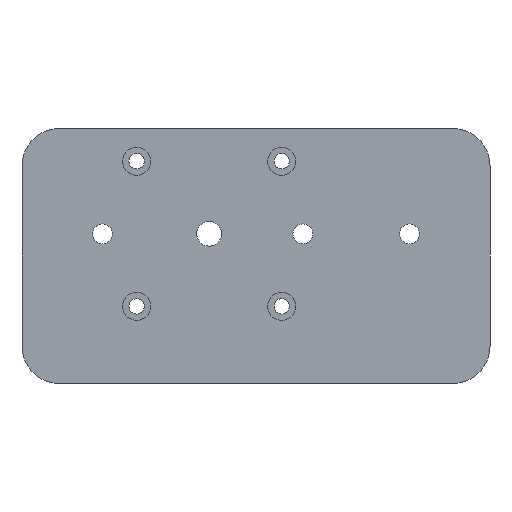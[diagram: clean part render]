
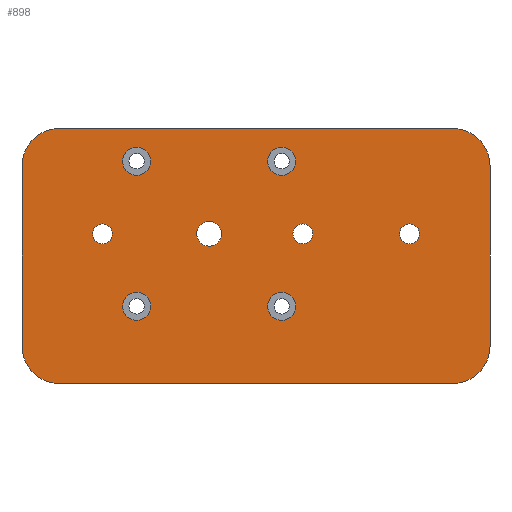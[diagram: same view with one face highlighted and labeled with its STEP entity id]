
A CAD part, front view. The second image highlights one B-rep face of the part: STEP entity #898.
In plain terms, the highlighted planar face has unit normal (0, -1, 0).
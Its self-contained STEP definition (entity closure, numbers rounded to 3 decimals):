
#67=FACE_BOUND('',#178,.T.);
#68=FACE_BOUND('',#179,.T.);
#69=FACE_BOUND('',#180,.T.);
#70=FACE_BOUND('',#181,.T.);
#71=FACE_BOUND('',#182,.T.);
#72=FACE_BOUND('',#183,.T.);
#73=FACE_BOUND('',#184,.T.);
#74=FACE_BOUND('',#185,.T.);
#105=FACE_OUTER_BOUND('',#177,.T.);
#177=EDGE_LOOP('',(#745,#746,#747,#748,#749,#750,#751,#752));
#178=EDGE_LOOP('',(#753));
#179=EDGE_LOOP('',(#754));
#180=EDGE_LOOP('',(#755));
#181=EDGE_LOOP('',(#756));
#182=EDGE_LOOP('',(#757));
#183=EDGE_LOOP('',(#758));
#184=EDGE_LOOP('',(#759));
#185=EDGE_LOOP('',(#760));
#244=LINE('',#1440,#313);
#256=LINE('',#1506,#325);
#257=LINE('',#1510,#326);
#258=LINE('',#1514,#327);
#313=VECTOR('',#1163,10.);
#325=VECTOR('',#1235,10.);
#326=VECTOR('',#1238,10.);
#327=VECTOR('',#1241,10.);
#363=CIRCLE('',#960,2.65);
#374=CIRCLE('',#979,3.);
#376=CIRCLE('',#982,3.);
#378=CIRCLE('',#986,3.);
#380=CIRCLE('',#989,3.);
#393=CIRCLE('',#1006,8.);
#394=CIRCLE('',#1008,8.);
#395=CIRCLE('',#1009,8.);
#396=CIRCLE('',#1010,8.);
#397=CIRCLE('',#1011,2.1);
#398=CIRCLE('',#1012,2.1);
#399=CIRCLE('',#1013,2.1);
#431=VERTEX_POINT('',#1387);
#449=VERTEX_POINT('',#1437);
#450=VERTEX_POINT('',#1439);
#452=VERTEX_POINT('',#1445);
#454=VERTEX_POINT('',#1451);
#456=VERTEX_POINT('',#1458);
#458=VERTEX_POINT('',#1464);
#473=VERTEX_POINT('',#1501);
#474=VERTEX_POINT('',#1505);
#475=VERTEX_POINT('',#1507);
#476=VERTEX_POINT('',#1509);
#477=VERTEX_POINT('',#1511);
#478=VERTEX_POINT('',#1513);
#479=VERTEX_POINT('',#1516);
#480=VERTEX_POINT('',#1518);
#481=VERTEX_POINT('',#1520);
#521=EDGE_CURVE('',#431,#431,#363,.T.);
#546=EDGE_CURVE('',#450,#449,#244,.T.);
#550=EDGE_CURVE('',#452,#452,#374,.T.);
#553=EDGE_CURVE('',#454,#454,#376,.T.);
#556=EDGE_CURVE('',#456,#456,#378,.T.);
#559=EDGE_CURVE('',#458,#458,#380,.T.);
#576=EDGE_CURVE('',#473,#449,#393,.T.);
#578=EDGE_CURVE('',#473,#474,#256,.T.);
#579=EDGE_CURVE('',#475,#474,#394,.T.);
#580=EDGE_CURVE('',#475,#476,#257,.T.);
#581=EDGE_CURVE('',#477,#476,#395,.T.);
#582=EDGE_CURVE('',#477,#478,#258,.T.);
#583=EDGE_CURVE('',#450,#478,#396,.T.);
#584=EDGE_CURVE('',#479,#479,#397,.T.);
#585=EDGE_CURVE('',#480,#480,#398,.T.);
#586=EDGE_CURVE('',#481,#481,#399,.T.);
#745=ORIENTED_EDGE('',*,*,#576,.F.);
#746=ORIENTED_EDGE('',*,*,#578,.T.);
#747=ORIENTED_EDGE('',*,*,#579,.F.);
#748=ORIENTED_EDGE('',*,*,#580,.T.);
#749=ORIENTED_EDGE('',*,*,#581,.F.);
#750=ORIENTED_EDGE('',*,*,#582,.T.);
#751=ORIENTED_EDGE('',*,*,#583,.F.);
#752=ORIENTED_EDGE('',*,*,#546,.T.);
#753=ORIENTED_EDGE('',*,*,#521,.T.);
#754=ORIENTED_EDGE('',*,*,#550,.T.);
#755=ORIENTED_EDGE('',*,*,#553,.T.);
#756=ORIENTED_EDGE('',*,*,#556,.T.);
#757=ORIENTED_EDGE('',*,*,#559,.T.);
#758=ORIENTED_EDGE('',*,*,#584,.T.);
#759=ORIENTED_EDGE('',*,*,#585,.T.);
#760=ORIENTED_EDGE('',*,*,#586,.T.);
#865=PLANE('',#1007);
#898=ADVANCED_FACE('',(#105,#67,#68,#69,#70,#71,#72,#73,#74),#865,.T.);
#960=AXIS2_PLACEMENT_3D('',#1389,#1113,#1114);
#979=AXIS2_PLACEMENT_3D('',#1447,#1169,#1170);
#982=AXIS2_PLACEMENT_3D('',#1453,#1176,#1177);
#986=AXIS2_PLACEMENT_3D('',#1460,#1185,#1186);
#989=AXIS2_PLACEMENT_3D('',#1466,#1192,#1193);
#1006=AXIS2_PLACEMENT_3D('',#1502,#1230,#1231);
#1007=AXIS2_PLACEMENT_3D('',#1504,#1233,#1234);
#1008=AXIS2_PLACEMENT_3D('',#1508,#1236,#1237);
#1009=AXIS2_PLACEMENT_3D('',#1512,#1239,#1240);
#1010=AXIS2_PLACEMENT_3D('',#1515,#1242,#1243);
#1011=AXIS2_PLACEMENT_3D('',#1517,#1244,#1245);
#1012=AXIS2_PLACEMENT_3D('',#1519,#1246,#1247);
#1013=AXIS2_PLACEMENT_3D('',#1521,#1248,#1249);
#1113=DIRECTION('center_axis',(0.,1.,0.));
#1114=DIRECTION('ref_axis',(-1.,0.,0.));
#1163=DIRECTION('',(0.,0.,-1.));
#1169=DIRECTION('center_axis',(0.,1.,0.));
#1170=DIRECTION('ref_axis',(-1.,0.,0.));
#1176=DIRECTION('center_axis',(0.,1.,0.));
#1177=DIRECTION('ref_axis',(-1.,0.,0.));
#1185=DIRECTION('center_axis',(0.,1.,0.));
#1186=DIRECTION('ref_axis',(-1.,0.,0.));
#1192=DIRECTION('center_axis',(0.,1.,0.));
#1193=DIRECTION('ref_axis',(-1.,0.,0.));
#1230=DIRECTION('center_axis',(0.,1.,0.));
#1231=DIRECTION('ref_axis',(-0.707,0.,-0.707));
#1233=DIRECTION('center_axis',(0.,-1.,0.));
#1234=DIRECTION('ref_axis',(1.,0.,0.));
#1235=DIRECTION('',(1.,0.,0.));
#1236=DIRECTION('center_axis',(0.,1.,0.));
#1237=DIRECTION('ref_axis',(0.707,0.,-0.707));
#1238=DIRECTION('',(0.,0.,1.));
#1239=DIRECTION('center_axis',(0.,1.,0.));
#1240=DIRECTION('ref_axis',(0.707,0.,0.707));
#1241=DIRECTION('',(-1.,0.,0.));
#1242=DIRECTION('center_axis',(0.,1.,0.));
#1243=DIRECTION('ref_axis',(-0.707,0.,0.707));
#1244=DIRECTION('center_axis',(0.,1.,0.));
#1245=DIRECTION('ref_axis',(1.,0.,0.));
#1246=DIRECTION('center_axis',(0.,1.,0.));
#1247=DIRECTION('ref_axis',(1.,0.,0.));
#1248=DIRECTION('center_axis',(0.,1.,0.));
#1249=DIRECTION('ref_axis',(1.,0.,0.));
#1387=CARTESIAN_POINT('',(-7.435,-368.1,74.281));
#1389=CARTESIAN_POINT('Origin',(-10.085,-368.1,74.281));
#1437=CARTESIAN_POINT('',(-50.085,-368.1,50.281));
#1439=CARTESIAN_POINT('',(-50.085,-368.1,88.781));
#1440=CARTESIAN_POINT('',(-50.085,-368.1,96.781));
#1445=CARTESIAN_POINT('',(-22.585,-368.1,58.781));
#1447=CARTESIAN_POINT('Origin',(-25.585,-368.1,58.781));
#1451=CARTESIAN_POINT('',(-22.585,-368.1,89.781));
#1453=CARTESIAN_POINT('Origin',(-25.585,-368.1,89.781));
#1458=CARTESIAN_POINT('',(8.415,-368.1,58.781));
#1460=CARTESIAN_POINT('Origin',(5.415,-368.1,58.781));
#1464=CARTESIAN_POINT('',(8.415,-368.1,89.781));
#1466=CARTESIAN_POINT('Origin',(5.415,-368.1,89.781));
#1501=CARTESIAN_POINT('',(-42.085,-368.1,42.281));
#1502=CARTESIAN_POINT('Origin',(-42.085,-368.1,50.281));
#1504=CARTESIAN_POINT('Origin',(-0.085,-368.1,69.531));
#1505=CARTESIAN_POINT('',(41.915,-368.1,42.281));
#1506=CARTESIAN_POINT('',(49.915,-368.1,42.281));
#1507=CARTESIAN_POINT('',(49.915,-368.1,50.281));
#1508=CARTESIAN_POINT('Origin',(41.915,-368.1,50.281));
#1509=CARTESIAN_POINT('',(49.915,-368.1,88.781));
#1510=CARTESIAN_POINT('',(49.915,-368.1,62.281));
#1511=CARTESIAN_POINT('',(41.915,-368.1,96.781));
#1512=CARTESIAN_POINT('Origin',(41.915,-368.1,88.781));
#1513=CARTESIAN_POINT('',(-42.085,-368.1,96.781));
#1514=CARTESIAN_POINT('',(49.915,-368.1,96.781));
#1515=CARTESIAN_POINT('Origin',(-42.085,-368.1,88.781));
#1516=CARTESIAN_POINT('',(-34.985,-368.1,74.281));
#1517=CARTESIAN_POINT('Origin',(-32.885,-368.1,74.281));
#1518=CARTESIAN_POINT('',(30.615,-368.1,74.281));
#1519=CARTESIAN_POINT('Origin',(32.715,-368.1,74.281));
#1520=CARTESIAN_POINT('',(7.815,-368.1,74.281));
#1521=CARTESIAN_POINT('Origin',(9.915,-368.1,74.281));
